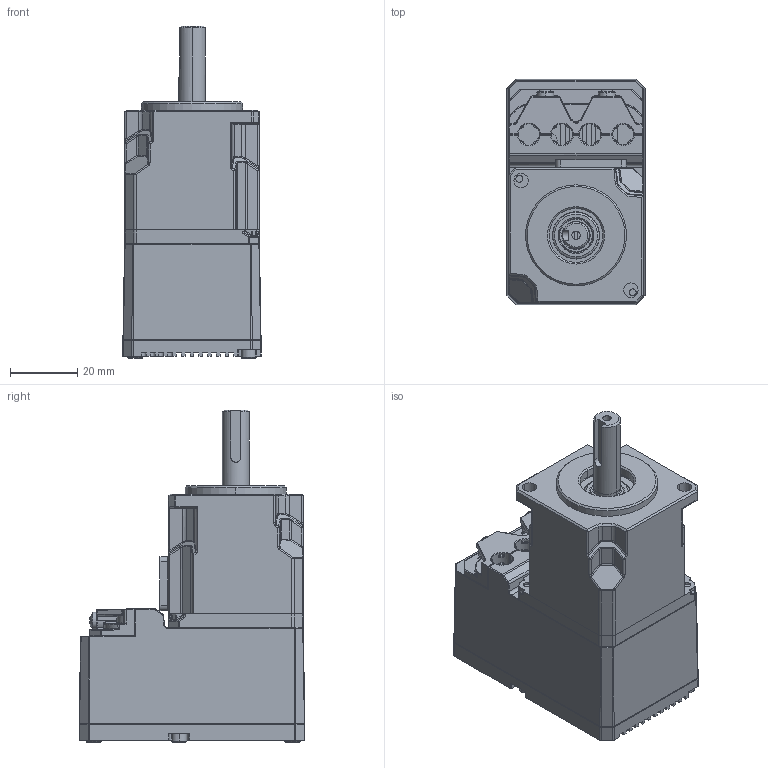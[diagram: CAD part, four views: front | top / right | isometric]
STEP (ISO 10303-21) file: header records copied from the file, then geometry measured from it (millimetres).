
FILE_DESCRIPTION (( 'STEP AP214' ), '1' );
FILE_NAME ('MMS74005BE-OB2PKN_REF 241104.STEP', '2024-11-05T00:45:20', ( '' ), ( '' ), 'SwSTEP 2.0', 'SolidWorks 2022', '' );
FILE_SCHEMA (( 'AUTOMOTIVE_DESIGN' ));
Length unit declared in the file: millimetre
Products named in the file (1): MMS74005BE-OB2PKN_REF 241104
Bounding box: 41 x 67 x 98.5 mm (x, y, z)
Surface area: 24379.6 mm2 (no closed solid volume)
Topology: 0 solids, 50 shells, 1115 faces, 3339 edges, 2132 vertices
Faces by surface type: cylinder 384, plane 266, bspline 239, torus 96, sphere 92, cone 38
Entity records: 53535 total; most frequent: CARTESIAN_POINT 14573, ORIENTED_EDGE 5435, DIRECTION 5312, EDGE_CURVE 3226, AXIS2_PLACEMENT_3D 2110, VERTEX_POINT 2108, CIRCLE 1233, EDGE_LOOP 1198
